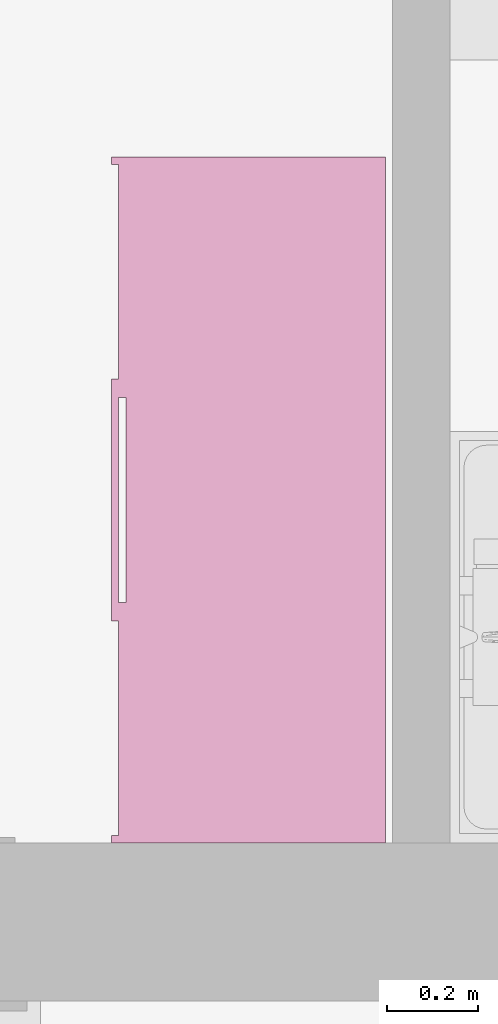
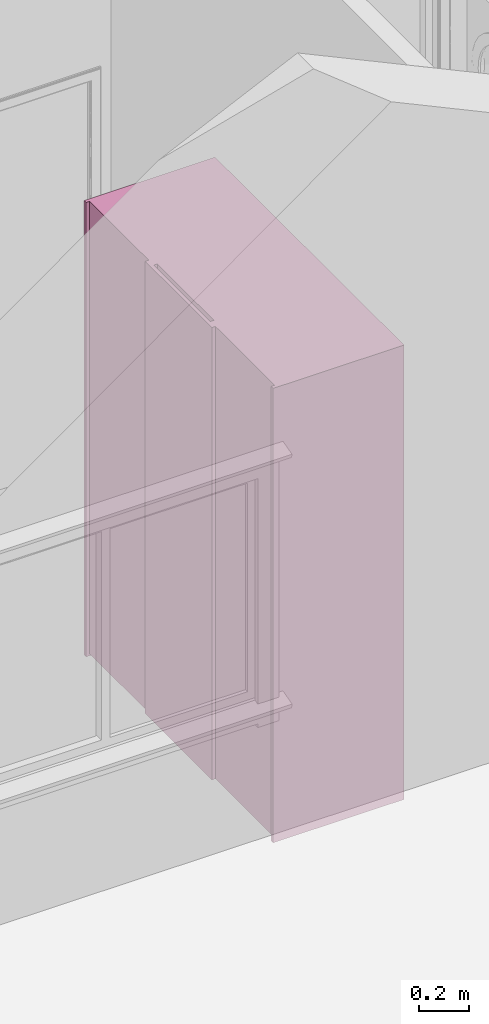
# One storey, part 36 of 44: 1 furnishing.
"""IFC2X3 building model written with IfcOpenShell, lengths in millimetres."""

from ifc_helpers import new_model, entity, si_unit, converted_unit, direction, frame, frame_2d, origin, place, context, subcontext, project, spatial, polyline, rectangle, outline, extrude, source, transform, mapped, material, material_list, type_object, type_shapes, element, save


model = new_model("IFC2X3")

# Units and contexts
model_context = context("Model", 3, precision=0.01, world=origin(), true_north=direction((0.0, 1.0)))
body_context = subcontext(model_context, "Body", "Model", "MODEL_VIEW")
ifc_project = project(units=[si_unit("LENGTHUNIT", "METRE", prefix="MILLI"), si_unit("AREAUNIT", "SQUARE_METRE"), si_unit("VOLUMEUNIT", "CUBIC_METRE"), converted_unit("PLANEANGLEUNIT", "DEGREE", entity("IfcPlaneAngleMeasure", 0.017453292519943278), si_unit("PLANEANGLEUNIT", "RADIAN"), dimensions=[0, 0, 0, 0, 0, 0, 0])], contexts=[model_context])

# Site, building, storey, space
site_placement = place(None, origin())
site = spatial("IfcSite", under=ifc_project, at=site_placement, Name="Default", CompositionType="ELEMENT")
building_placement = place(site_placement, origin())
building = spatial("IfcBuilding", under=site, at=building_placement, CompositionType="ELEMENT")
storey_placement = place(building_placement, frame((0.0, 0.0, 2681.0)))
storey = spatial("IfcBuildingStorey", under=building, at=storey_placement, Name="Et. 2", CompositionType="ELEMENT", Elevation=2681.0)
space_placement = place(storey_placement, origin())
space = spatial("IfcSpace", under=storey, at=space_placement, Name="202", CompositionType="ELEMENT", InteriorOrExteriorSpace="INTERNAL")

# Furnishing
ifc_material_1 = material(Name="Møbler - Hvit")
ifc_material_2 = material(Name="Møbler - Grå mørk")
ifc_material_list = material_list([ifc_material_1, ifc_material_2])
furniture_type = type_object("IfcFurnitureType", Name="Focus Garderobeskap - Skyvedører 3 slette:150x60x220", AssemblyPlace="NOTDEFINED", material=ifc_material_list)
shared_shape = source(origin(), body_context, "Body", "SweptSolid", [
    extrude(rectangle(XDim=16.000000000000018, YDim=509.333333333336, at=frame_2d((-1.687538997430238e-14, -4.263256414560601e-14), x_axis=(1.0, 0.0))), frame((-479.33333333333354, 276.0, 10.0), z_axis=(0.0, 0.0, 1.0), x_axis=(0.0, 1.0, 0.0)), (0.0, 0.0, 1.0), 2189.9999999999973),
    extrude(rectangle(XDim=16.000000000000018, YDim=529.3333333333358, at=frame_2d((-1.687538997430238e-14, 5.684341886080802e-14), x_axis=(1.0, 0.0))), frame((0.0, 292.0, 10.0), z_axis=(0.0, 0.0, 1.0), x_axis=(0.0, 1.0, 0.0)), (0.0, 0.0, 1.0), 2189.9999999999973),
    extrude(rectangle(XDim=16.000000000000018, YDim=509.33333333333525, at=frame_2d((-1.687538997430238e-14, 0.0), x_axis=(1.0, 0.0))), frame((479.3333333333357, 276.0, 10.0), z_axis=(0.0, 0.0, 1.0), x_axis=(0.0, 1.0, 0.0)), (0.0, 0.0, 1.0), 2189.9999999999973),
    extrude(outline(polyline([(-442.0, -750.0), (158.0, -750.0), (158.0, -734.0), (126.0, -734.0), (126.0, 734.0), (158.0, 734.0), (158.0, 750.0), (-442.0, 750.0), (-442.0, -750.0)])), frame((0.0, 142.0, 0.0), z_axis=(0.0, 0.0, 1.0), x_axis=(0.0, 1.0, 0.0)), (0.0, 0.0, 1.0), 2200.0000000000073),
])
type_shapes(furniture_type, [shared_shape])
furnishing_placement = place(space_placement, frame((13250.009586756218, 12504.180957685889, 0.0), z_axis=(0.0, 0.0, 1.0), x_axis=(0.0, 1.0, 0.0)))
element("IfcFurnishingElement", 1, at=furnishing_placement, inside=space, type_object=furniture_type, material=ifc_material_list, Name="Focus Garderobeskap - Skyvedører 3 slette:150x60x220", context=body_context, shape_type="MappedRepresentation", body=[
    mapped(shared_shape, transform((0.0, 0.0, 0.0), scale=1.0)),
])

save(model, "model.ifc")
